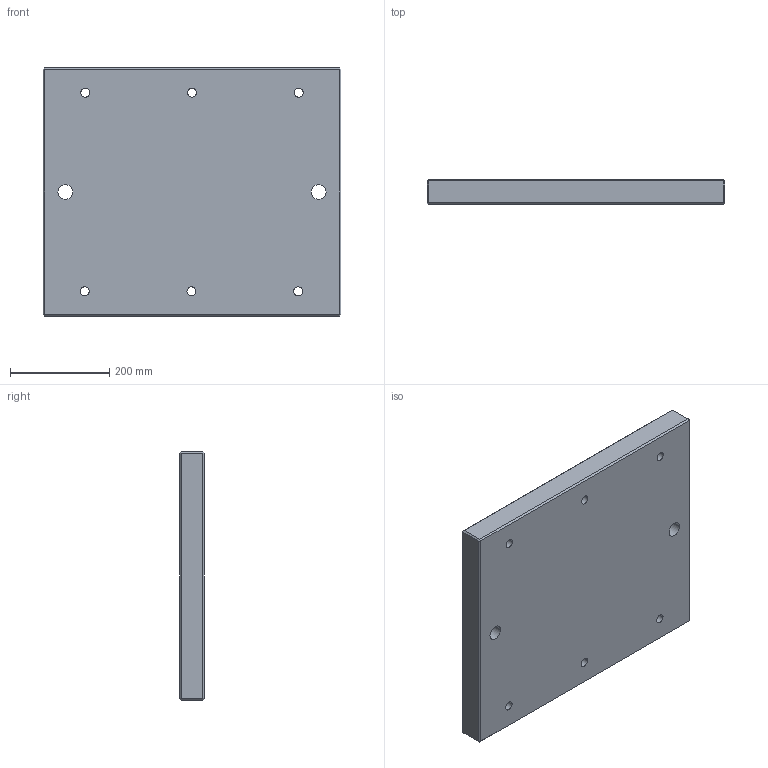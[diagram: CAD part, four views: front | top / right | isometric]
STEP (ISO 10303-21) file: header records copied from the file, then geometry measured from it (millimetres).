
FILE_DESCRIPTION((''),'2;1');
FILE_NAME('FG_WH_BASPL_RCPLNNP002','2026-05-17T09:34:14',('Admin'),(''),'CREO PARAMETRIC BY PTC INC, 2025010','CREO PARAMETRIC BY PTC INC, 2025010','');
FILE_SCHEMA(('CONFIG_CONTROL_DESIGN'));
Length unit declared in the file: millimetre
Products named in the file (1): FG_WH_BASPL_RCPLNNP002
Bounding box: 600 x 50 x 500 mm (x, y, z)
Volume: 14803368.1 mm3; surface area: 725027.4 mm2
Topology: 1 solids, 1 shells, 60 faces, 140 edges, 88 vertices
Faces by surface type: plane 32, cylinder 28
Entity records: 1782 total; most frequent: DIRECTION 316, CARTESIAN_POINT 288, ORIENTED_EDGE 280, EDGE_CURVE 140, AXIS2_PLACEMENT_3D 116, VERTEX_POINT 88, VECTOR 84, LINE 84
